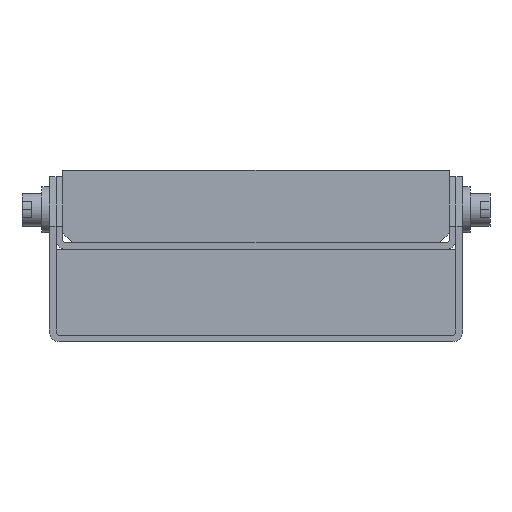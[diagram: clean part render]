
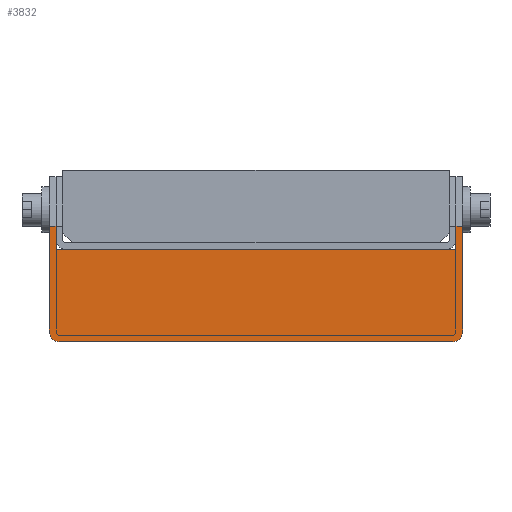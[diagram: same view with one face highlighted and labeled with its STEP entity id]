
A CAD part, front view. The second image highlights one B-rep face of the part: STEP entity #3832.
In plain terms, the highlighted planar face has unit normal (0, -1, 0).
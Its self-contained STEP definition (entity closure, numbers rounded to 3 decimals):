
#462=FACE_OUTER_BOUND('',#706,.T.);
#706=EDGE_LOOP('',(#3176,#3177,#3178,#3179,#3180,#3181,#3182,#3183,#3184,
#3185));
#950=LINE('',#6300,#1260);
#954=LINE('',#6309,#1264);
#959=LINE('',#6318,#1269);
#964=LINE('',#6327,#1274);
#978=LINE('',#6358,#1288);
#986=LINE('',#6381,#1296);
#987=LINE('',#6383,#1297);
#991=LINE('',#6394,#1301);
#1260=VECTOR('',#5048,10.);
#1264=VECTOR('',#5054,10.);
#1269=VECTOR('',#5061,10.);
#1274=VECTOR('',#5072,10.);
#1288=VECTOR('',#5096,10.);
#1296=VECTOR('',#5120,10.);
#1297=VECTOR('',#5123,10.);
#1301=VECTOR('',#5137,10.);
#1564=CIRCLE('',#4264,3.);
#1565=CIRCLE('',#4267,3.);
#1800=VERTEX_POINT('',#6296);
#1802=VERTEX_POINT('',#6299);
#1804=VERTEX_POINT('',#6305);
#1806=VERTEX_POINT('',#6308);
#1809=VERTEX_POINT('',#6316);
#1810=VERTEX_POINT('',#6326);
#1822=VERTEX_POINT('',#6356);
#1829=VERTEX_POINT('',#6379);
#1830=VERTEX_POINT('',#6389);
#1831=VERTEX_POINT('',#6393);
#2254=EDGE_CURVE('',#1802,#1800,#950,.T.);
#2258=EDGE_CURVE('',#1806,#1804,#954,.T.);
#2263=EDGE_CURVE('',#1809,#1804,#959,.T.);
#2268=EDGE_CURVE('',#1810,#1802,#964,.T.);
#2284=EDGE_CURVE('',#1800,#1822,#978,.T.);
#2296=EDGE_CURVE('',#1822,#1829,#986,.T.);
#2297=EDGE_CURVE('',#1806,#1829,#987,.T.);
#2300=EDGE_CURVE('',#1830,#1809,#1564,.T.);
#2302=EDGE_CURVE('',#1830,#1831,#991,.T.);
#2304=EDGE_CURVE('',#1810,#1831,#1565,.T.);
#3176=ORIENTED_EDGE('',*,*,#2258,.T.);
#3177=ORIENTED_EDGE('',*,*,#2263,.F.);
#3178=ORIENTED_EDGE('',*,*,#2300,.F.);
#3179=ORIENTED_EDGE('',*,*,#2302,.T.);
#3180=ORIENTED_EDGE('',*,*,#2304,.F.);
#3181=ORIENTED_EDGE('',*,*,#2268,.T.);
#3182=ORIENTED_EDGE('',*,*,#2254,.T.);
#3183=ORIENTED_EDGE('',*,*,#2284,.T.);
#3184=ORIENTED_EDGE('',*,*,#2296,.T.);
#3185=ORIENTED_EDGE('',*,*,#2297,.F.);
#3635=PLANE('',#4268);
#3832=ADVANCED_FACE('',(#462),#3635,.F.);
#4264=AXIS2_PLACEMENT_3D('',#6390,#5132,#5133);
#4267=AXIS2_PLACEMENT_3D('',#6397,#5141,#5142);
#4268=AXIS2_PLACEMENT_3D('',#6398,#5143,#5144);
#5048=DIRECTION('',(-1.,0.,0.));
#5054=DIRECTION('',(-1.,0.,0.));
#5061=DIRECTION('',(0.,0.,1.));
#5072=DIRECTION('',(0.,0.,1.));
#5096=DIRECTION('',(0.,0.,-1.));
#5120=DIRECTION('',(-1.,0.,0.));
#5123=DIRECTION('',(0.,0.,-1.));
#5132=DIRECTION('center_axis',(0.,1.,0.));
#5133=DIRECTION('ref_axis',(0.,0.,-1.));
#5137=DIRECTION('',(1.,0.,0.));
#5141=DIRECTION('center_axis',(0.,1.,0.));
#5142=DIRECTION('ref_axis',(1.,0.,0.));
#5143=DIRECTION('center_axis',(0.,1.,0.));
#5144=DIRECTION('ref_axis',(1.,0.,0.));
#6296=CARTESIAN_POINT('',(60.5,0.,35.));
#6299=CARTESIAN_POINT('',(62.5,0.,35.));
#6300=CARTESIAN_POINT('',(31.25,0.,35.));
#6305=CARTESIAN_POINT('',(-62.5,0.,35.));
#6308=CARTESIAN_POINT('',(-60.5,0.,35.));
#6309=CARTESIAN_POINT('',(31.25,0.,35.));
#6316=CARTESIAN_POINT('',(-62.5,0.,3.));
#6318=CARTESIAN_POINT('',(-62.5,0.,3.));
#6326=CARTESIAN_POINT('',(62.5,0.,3.));
#6327=CARTESIAN_POINT('',(62.5,0.,3.));
#6356=CARTESIAN_POINT('',(60.5,0.,28.));
#6358=CARTESIAN_POINT('',(60.5,0.,50.));
#6379=CARTESIAN_POINT('',(-60.5,0.,28.));
#6381=CARTESIAN_POINT('',(60.5,0.,28.));
#6383=CARTESIAN_POINT('',(-60.5,0.,50.));
#6389=CARTESIAN_POINT('',(-59.5,0.,0.));
#6390=CARTESIAN_POINT('Origin',(-59.5,0.,3.));
#6393=CARTESIAN_POINT('',(59.5,0.,0.));
#6394=CARTESIAN_POINT('',(0.,0.,0.));
#6397=CARTESIAN_POINT('Origin',(59.5,0.,3.));
#6398=CARTESIAN_POINT('Origin',(0.,0.,25.));
